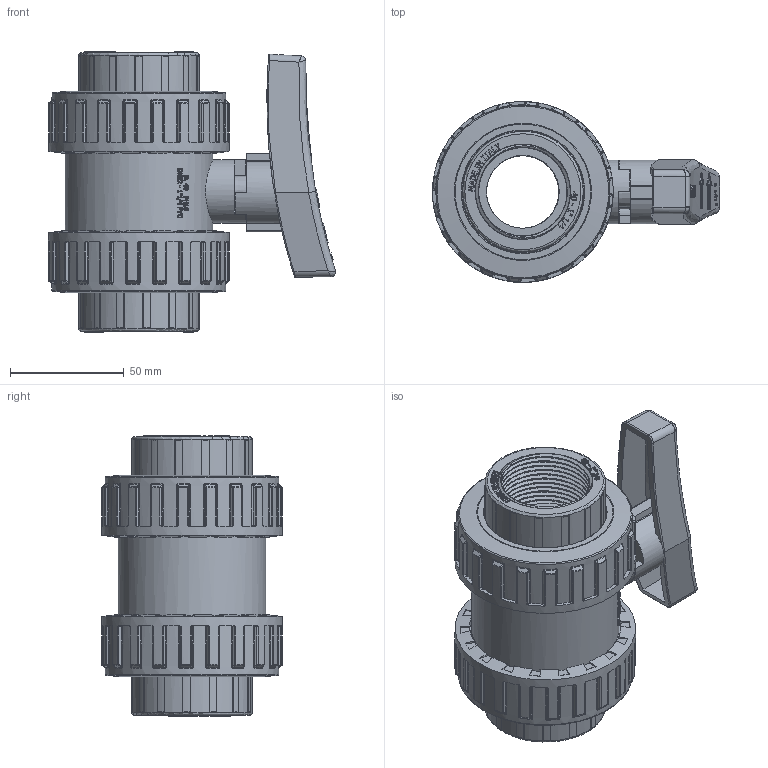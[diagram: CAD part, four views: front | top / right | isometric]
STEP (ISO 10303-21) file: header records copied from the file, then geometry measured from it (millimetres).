
FILE_DESCRIPTION(/* description */ (''),/* implementation_level */ '2;1');
FILE_NAME(/* name */ 'C:\ex desktop\VALVOLE SFERA\BV ACQUA\VALVOLE ACQUA FILETTATE\BVD41040\BVD41040_new_handle.stp',/* time_stamp */ '2019-04-02T14:57:00+02:00',/* author */ ('e.sacchi'),/* organization */ (''),/* preprocessor_version */ 'ST-DEVELOPER v16.13',/* originating_system */ 'Autodesk Inventor 2018',/* authorisation */ '');
FILE_SCHEMA (('AUTOMOTIVE_DESIGN { 1 0 10303 214 3 1 1 }'));
Length unit declared in the file: millimetre
Products named in the file (13): BVID40040; corpo_BVD_40_d_40; sfera_BVI_10_d_40; asta_BVD_40_d_40; LAV03037E; supporto_BVD_40_d_40; LAV3143E; PTFE_BVI_10_d_40; LAV6162E; maniglia_BVI_10_d_32; LAV6150E; collare_BVD_40_d_40; ghiera_BVD_40_d_40
Assembly tree (18 placements, depth 2):
  BVID40040
    corpo_BVD_40_d_40
    LAV3143E  x2
    PTFE_BVI_10_d_40  x2
    sfera_BVI_10_d_40
    asta_BVD_40_d_40
    LAV03037E  x2
    supporto_BVD_40_d_40
    LAV6162E
    maniglia_BVI_10_d_32
    LAV6150E  x2
    collare_BVD_40_d_40  x2
    ghiera_BVD_40_d_40  x2
Bounding box: 126.25 x 79.5 x 123.4 mm (x, y, z)
Volume: 315708 mm3; surface area: 175343.5 mm2
Topology: 20 solids, 20 shells, 2861 faces, 7446 edges, 4758 vertices
Faces by surface type: plane 1242, bspline 640, cylinder 570, torus 271, sphere 81, cone 57
Full cylindrical faces by diameter (mm): 10.036 x1, 14 x1, 17.2 x1, 17.7 x1, 28 x1, 32 x5, 37 x2, 40.4 x1, 40.5 x1, 41.91 x4, 42 x3, 42.272 x1, 42.5 x1, 46.741 x1, 51.5 x2, 53 x5, 54 x1, 55.5 x1, 59 x1, 65 x9, 66.5 x8, 76.5 x2, 79.5 x2
Entity records: 82271 total; most frequent: CARTESIAN_POINT 36433, ORIENTED_EDGE 9960, DIRECTION 8674, EDGE_CURVE 4980, VERTEX_POINT 3242, AXIS2_PLACEMENT_3D 3142, LINE 2390, VECTOR 2390
